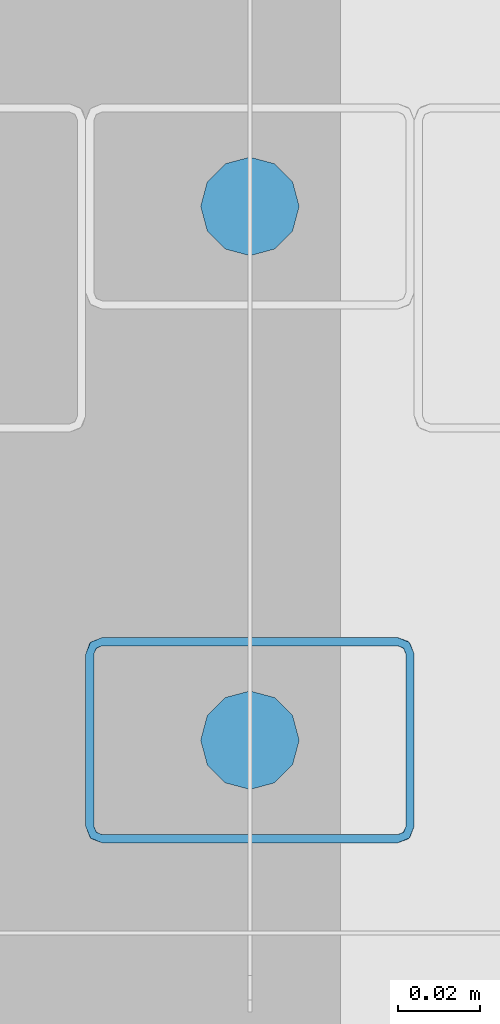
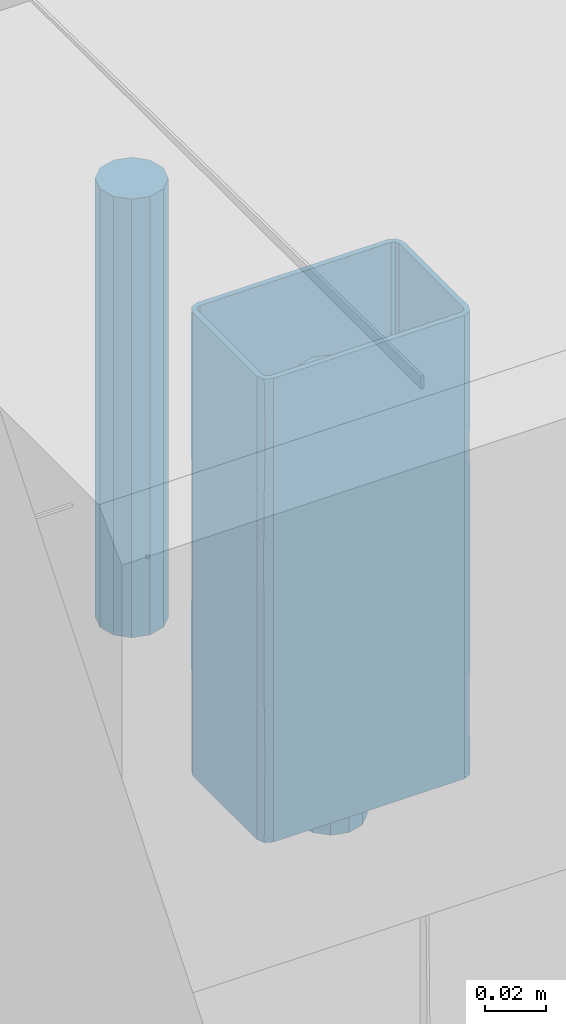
# One storey, part 134 of 186: 3 beams.
"""IFC4X3_ADD2 building model written with IfcOpenShell, lengths in millimetres."""

from ifc_helpers import new_model, si_unit, direction, frame, origin_with_axes, place, context, subcontext, project, spatial, polygons, element, save


model = new_model("IFC4X3_ADD2")

# Units and contexts
model_context = context("Model", 3, precision=1e-05, world=origin_with_axes(), true_north=direction((0.0, 1.0)))
body_context = subcontext(model_context, "Body", "Model", "MODEL_VIEW")
ifc_project = project(units=[si_unit("LENGTHUNIT", "METRE", prefix="MILLI"), si_unit("AREAUNIT", "SQUARE_METRE"), si_unit("VOLUMEUNIT", "CUBIC_METRE"), si_unit("PLANEANGLEUNIT", "RADIAN"), si_unit("TIMEUNIT", "SECOND"), si_unit("MASSUNIT", "GRAM")], contexts=[model_context])

# Site, building, storey
site_placement = place(None, origin_with_axes())
site = spatial("IfcSite", under=ifc_project, at=site_placement, Name="Site", CompositionType="ELEMENT")
building_placement = place(site_placement, origin_with_axes())
building = spatial("IfcBuilding", under=site, at=building_placement, Name="IFC Building Story")
storey_placement = place(building_placement, frame((0.0, 0.0, 4370.0), z_axis=(0.0, 0.0, 1.0), x_axis=(1.0, 0.0, 0.0)))
storey = spatial("IfcBuildingStorey", under=building, at=storey_placement, Name="ETAGE 10 (1)", Elevation=4370.0)

# Beams
beam_1_placement = place(storey_placement, frame((0.0, 0.0, -4370.0), z_axis=(0.0, 0.0, 1.0), x_axis=(1.0, 0.0, 0.0)))
element("IfcBeam", 1, at=beam_1_placement, inside=storey, Name="SD11", ObjectType="D24", context=body_context, shape_type="Tessellation", body=[
    polygons([(33339.1876988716, -14379.999992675, 7707.905416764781), (33339.1876988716, -14379.999992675, 7532.90541676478), (33340.79539402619, -14385.999992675, 7532.90541676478), (33340.79539402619, -14385.999992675, 7707.905416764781), (33345.1876988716, -14390.39229752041, 7532.90541676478), (33345.1876988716, -14390.39229752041, 7707.905416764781), (33351.1876988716, -14391.999992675, 7532.90541676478), (33351.1876988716, -14391.999992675, 7707.905416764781), (33357.1876988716, -14390.39229752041, 7532.90541676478), (33357.1876988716, -14390.39229752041, 7707.905416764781), (33361.58000371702, -14385.999992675, 7532.90541676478), (33361.58000371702, -14385.999992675, 7707.905416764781), (33363.1876988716, -14379.999992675, 7532.90541676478), (33363.1876988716, -14379.999992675, 7707.905416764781), (33361.58000371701, -14373.999992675, 7532.90541676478), (33361.58000371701, -14373.999992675, 7707.905416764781), (33357.1876988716, -14369.60768782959, 7532.90541676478), (33357.1876988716, -14369.60768782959, 7707.905416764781), (33351.1876988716, -14367.999992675, 7532.90541676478), (33351.1876988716, -14367.999992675, 7707.905416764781), (33345.1876988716, -14369.60768782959, 7532.90541676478), (33345.1876988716, -14369.60768782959, 7707.905416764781), (33340.79539402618, -14373.999992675, 7532.90541676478), (33340.79539402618, -14373.999992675, 7707.905416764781)], [[[1, 2, 3, 4]], [[4, 3, 5, 6]], [[6, 5, 7, 8]], [[8, 7, 9, 10]], [[10, 9, 11, 12]], [[12, 11, 13, 14]], [[14, 13, 15, 16]], [[16, 15, 17, 18]], [[18, 17, 19, 20]], [[20, 19, 21, 22]], [[22, 21, 23, 24]], [[24, 23, 2, 1]], [[4, 6, 8]], [[4, 8, 10]], [[4, 10, 12]], [[4, 12, 14]], [[4, 14, 16]], [[4, 16, 18]], [[4, 18, 20]], [[4, 20, 22]], [[4, 22, 24]], [[4, 24, 1]], [[2, 23, 21]], [[2, 21, 19]], [[2, 19, 17]], [[2, 17, 15]], [[2, 15, 13]], [[2, 13, 11]], [[2, 11, 9]], [[2, 9, 7]], [[2, 7, 5]], [[2, 5, 3]]]),
])
beam_2_placement = place(storey_placement, frame((0.0, 0.0, -4370.0), z_axis=(0.0, 0.0, 1.0), x_axis=(1.0, 0.0, 0.0)))
element("IfcBeam", 2, at=beam_2_placement, inside=storey, Name="SD11", ObjectType="D24", context=body_context, shape_type="Tessellation", body=[
    polygons([(33339.1876988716, -14249.999992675, 7707.905416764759), (33339.1876988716, -14249.999992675, 7532.90541676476), (33340.79539402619, -14255.999992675, 7532.90541676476), (33340.79539402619, -14255.999992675, 7707.905416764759), (33345.1876988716, -14260.39229752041, 7532.90541676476), (33345.1876988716, -14260.39229752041, 7707.905416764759), (33351.1876988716, -14261.999992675, 7532.90541676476), (33351.1876988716, -14261.999992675, 7707.905416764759), (33357.1876988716, -14260.39229752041, 7532.90541676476), (33357.1876988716, -14260.39229752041, 7707.905416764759), (33361.58000371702, -14255.999992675, 7532.90541676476), (33361.58000371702, -14255.999992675, 7707.905416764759), (33363.18769887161, -14249.999992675, 7532.90541676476), (33363.18769887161, -14249.999992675, 7707.905416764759), (33361.58000371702, -14243.999992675, 7532.90541676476), (33361.58000371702, -14243.999992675, 7707.905416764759), (33357.1876988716, -14239.60768782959, 7532.90541676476), (33357.1876988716, -14239.60768782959, 7707.905416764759), (33351.1876988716, -14237.999992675, 7532.90541676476), (33351.1876988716, -14237.999992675, 7707.905416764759), (33345.1876988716, -14239.60768782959, 7532.90541676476), (33345.1876988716, -14239.60768782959, 7707.905416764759), (33340.79539402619, -14243.999992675, 7532.90541676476), (33340.79539402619, -14243.999992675, 7707.905416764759)], [[[1, 2, 3, 4]], [[4, 3, 5, 6]], [[6, 5, 7, 8]], [[8, 7, 9, 10]], [[10, 9, 11, 12]], [[12, 11, 13, 14]], [[14, 13, 15, 16]], [[16, 15, 17, 18]], [[18, 17, 19, 20]], [[20, 19, 21, 22]], [[22, 21, 23, 24]], [[24, 23, 2, 1]], [[4, 6, 8]], [[4, 8, 10]], [[4, 10, 12]], [[4, 12, 14]], [[4, 14, 16]], [[4, 16, 18]], [[4, 18, 20]], [[4, 20, 22]], [[4, 22, 24]], [[4, 24, 1]], [[2, 23, 21]], [[2, 21, 19]], [[2, 19, 17]], [[2, 17, 15]], [[2, 15, 13]], [[2, 13, 11]], [[2, 11, 9]], [[2, 9, 7]], [[2, 7, 5]], [[2, 5, 3]]]),
])
beam_3_placement = place(storey_placement, frame((0.0, 0.0, -4370.0), z_axis=(0.0, 0.0, 1.0), x_axis=(1.0, 0.0, 0.0)))
element("IfcBeam", 3, at=beam_3_placement, inside=storey, Name="PS9", ObjectType="K50*80*2", context=body_context, shape_type="Tessellation", body=[
    polygons([(33389.18800000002, -14400.99999999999, 7549.598981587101), (33391.18800000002, -14400.99999999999, 7549.598981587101), (33388.60221356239, -14402.41421356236, 7549.598981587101), (33389.18800000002, -14358.99999999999, 7549.598981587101), (33391.18800000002, -14358.99999999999, 7549.598981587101), (33388.60221356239, -14357.58578643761, 7549.598981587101), (33390.01642712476, -14356.17157287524, 7549.598981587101), (33387.18800000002, -14354.99999999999, 7549.598981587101), (33387.18800000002, -14356.99999999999, 7549.598981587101), (33315.18800000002, -14354.99999999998, 7549.598981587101), (33315.18800000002, -14356.99999999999, 7549.598981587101), (33313.77378643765, -14357.58578643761, 7549.598981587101), (33312.35957287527, -14356.17157287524, 7549.598981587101), (33311.18800000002, -14358.99999999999, 7549.598981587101), (33313.18800000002, -14358.99999999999, 7549.598981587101), (33311.18800000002, -14400.99999999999, 7549.598981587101), (33313.18800000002, -14400.99999999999, 7549.598981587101), (33313.77378643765, -14402.41421356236, 7549.598981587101), (33312.35957287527, -14403.82842712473, 7549.598981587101), (33315.18800000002, -14404.99999999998, 7549.598981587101), (33315.18800000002, -14402.99999999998, 7549.598981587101), (33387.18800000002, -14402.99999999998, 7549.598981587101), (33387.18800000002, -14404.99999999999, 7549.598981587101), (33390.01642712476, -14403.82842712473, 7549.598981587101), (33313.18800000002, -14400.99999999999, 7734.598981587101), (33311.18800000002, -14400.99999999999, 7734.598981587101), (33313.77378643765, -14402.41421356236, 7734.598981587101), (33313.18800000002, -14358.99999999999, 7734.598981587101), (33311.18800000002, -14358.99999999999, 7734.598981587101), (33313.77378643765, -14357.58578643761, 7734.598981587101), (33312.35957287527, -14356.17157287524, 7734.598981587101), (33315.18800000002, -14354.99999999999, 7734.598981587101), (33315.18800000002, -14356.99999999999, 7734.598981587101), (33387.18800000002, -14354.99999999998, 7734.598981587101), (33387.18800000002, -14356.99999999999, 7734.598981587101), (33388.60221356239, -14357.58578643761, 7734.598981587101), (33390.01642712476, -14356.17157287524, 7734.598981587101), (33391.18800000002, -14358.99999999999, 7734.598981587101), (33389.18800000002, -14358.99999999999, 7734.598981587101), (33391.18800000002, -14400.99999999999, 7734.598981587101), (33389.18800000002, -14400.99999999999, 7734.598981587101), (33388.60221356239, -14402.41421356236, 7734.598981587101), (33390.01642712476, -14403.82842712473, 7734.598981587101), (33387.18800000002, -14404.99999999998, 7734.598981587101), (33387.18800000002, -14402.99999999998, 7734.598981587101), (33315.18800000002, -14402.99999999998, 7734.598981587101), (33315.18800000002, -14404.99999999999, 7734.598981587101), (33312.35957287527, -14403.82842712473, 7734.598981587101), (33315.18800000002, -14354.99999999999, 7567.057500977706), (33315.18800000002, -14354.99999999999, 7595.848981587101), (33315.18800000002, -14354.99999999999, 7618.973979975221), (33315.18800000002, -14354.99999999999, 7642.098981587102), (33315.18800000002, -14354.99999999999, 7665.22398319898), (33315.18800000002, -14354.99999999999, 7688.348981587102), (33315.18800000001, -14354.99999999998, 7717.140462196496), (33387.18800000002, -14354.99999999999, 7699.681936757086), (33387.18800000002, -14354.99999999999, 7677.016027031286), (33387.18800000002, -14354.99999999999, 7648.224549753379), (33387.18800000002, -14354.99999999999, 7619.433072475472), (33387.18800000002, -14354.99999999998, 7584.516026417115), (33389.87013952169, -14356.03248798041, 7688.348979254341), (33391.18800000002, -14358.99999999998, 7717.140460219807), (33391.18800000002, -14358.99999999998, 7567.057505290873), (33390.13632995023, -14356.29678885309, 7578.945875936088), (33390.12976139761, -14356.28964211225, 7653.661479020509), (33391.18800000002, -14358.99999999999, 7665.223981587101), (33390.12985629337, -14356.28974511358, 7628.466971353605), (33389.76734546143, -14355.94271738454, 7711.526446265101), (33391.18800000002, -14358.99999999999, 7688.348981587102), (33389.75682180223, -14355.93386977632, 7602.891747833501), (33391.18800000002, -14358.99999999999, 7642.098981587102), (33391.18800000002, -14358.99999999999, 7618.9739815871), (33391.18800000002, -14358.99999999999, 7595.848981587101), (33391.18800000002, -14400.99999999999, 7717.140458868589), (33391.18800000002, -14400.99999999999, 7688.348981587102), (33391.18800000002, -14400.99999999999, 7665.223981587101), (33391.18800000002, -14400.99999999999, 7642.098981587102), (33391.18800000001, -14400.99999999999, 7618.9739815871), (33391.18800000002, -14400.99999999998, 7595.848981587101), (33391.18800000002, -14400.99999999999, 7567.057504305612), (33390.13633021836, -14403.70321085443, 7705.252077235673), (33389.76734551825, -14404.05728256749, 7572.671514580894), (33389.87013952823, -14403.96751201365, 7595.848979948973), (33387.18800000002, -14404.99999999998, 7584.516027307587), (33387.18800000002, -14404.99999999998, 7607.181936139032), (33390.12976137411, -14403.71035791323, 7630.536479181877), (33387.18800000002, -14404.99999999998, 7699.681935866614), (33389.75682193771, -14404.06613011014, 7681.306206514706), (33390.12985619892, -14403.71025498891, 7655.73098495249), (33387.18800000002, -14404.99999999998, 7664.764890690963), (33387.18800000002, -14404.99999999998, 7635.973413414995), (33315.18800000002, -14404.99999999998, 7699.681936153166), (33315.18800000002, -14404.99999999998, 7670.890458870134), (33315.18800000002, -14404.99999999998, 7642.098981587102), (33315.18800000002, -14404.99999999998, 7618.973981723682), (33315.18800000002, -14404.99999999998, 7595.848981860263), (33315.18800000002, -14404.99999999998, 7567.057504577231), (33311.18800000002, -14400.99999999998, 7584.516027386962), (33311.18800000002, -14400.99999999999, 7619.433073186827), (33312.34756484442, -14403.81636789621, 7607.411479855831), (33311.18800000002, -14400.99999999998, 7699.681935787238), (33312.35957299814, -14403.8284272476, 7688.348976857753), (33312.59986179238, -14404.04984272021, 7711.473977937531), (33312.5361167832, -14403.99458100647, 7583.376471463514), (33312.22049317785, -14403.68214527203, 7663.470051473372), (33312.2957334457, -14403.76311313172, 7640.418718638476), (33311.18800000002, -14400.99999999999, 7677.01602659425), (33311.18800000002, -14400.99999999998, 7648.224549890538), (33311.18800000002, -14358.99999999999, 7699.681936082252), (33311.18800000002, -14358.99999999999, 7677.016027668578), (33311.18800000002, -14358.99999999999, 7648.224550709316), (33311.18800000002, -14358.99999999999, 7619.433072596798), (33311.18800000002, -14358.99999999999, 7584.516027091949), (33312.22048794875, -14356.31786051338, 7688.348978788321), (33312.48478884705, -14356.05167005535, 7578.945875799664), (33312.47764210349, -14356.05823861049, 7653.661478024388), (33312.47774509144, -14356.05814372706, 7628.466970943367), (33312.13071738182, -14356.42065454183, 7711.526445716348), (33312.12186975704, -14356.43117822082, 7602.891747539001), (33313.82800168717, -14357.53357421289, 7625.929039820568), (33313.18800000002, -14358.99999999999, 7623.66922028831), (33313.8731783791, -14357.49293526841, 7613.583468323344), (33313.60929313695, -14357.77212189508, 7664.531819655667), (33313.71072133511, -14357.65179832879, 7653.749277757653), (33315.18800000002, -14356.99999999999, 7665.223981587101), (33313.82800170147, -14357.53357419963, 7693.738959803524), (33313.18800000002, -14358.99999999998, 7702.259100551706), (33313.18800000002, -14358.99999999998, 7691.479140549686), (33313.18800000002, -14358.99999999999, 7680.699180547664), (33313.70109668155, -14357.6624206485, 7641.817961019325), (33315.18800000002, -14356.99999999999, 7642.098981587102), (33315.18800000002, -14356.99999999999, 7722.253941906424), (33313.7737864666, -14357.58578640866, 7717.646499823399), (33315.18800000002, -14356.99999999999, 7709.90890222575), (33313.78242951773, -14357.57719586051, 7705.830626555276), (33313.18800000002, -14358.99999999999, 7722.25394171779), (33313.18800000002, -14358.99999999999, 7561.94402094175), (33313.77378641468, -14357.58578646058, 7568.11654096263), (33315.18800000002, -14356.99999999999, 7561.944021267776), (33313.18800000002, -14358.99999999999, 7636.014260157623), (33313.18800000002, -14358.99999999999, 7586.634100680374), (33313.72736652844, -14357.63378264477, 7580.461580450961), (33313.77378639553, -14357.58578647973, 7592.806619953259), (33313.71533825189, -14357.64675671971, 7675.309197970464), (33315.18800000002, -14356.99999999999, 7688.348981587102), (33313.18800000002, -14358.99999999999, 7598.979140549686), (33313.18800000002, -14358.99999999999, 7574.289060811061), (33315.18800000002, -14356.99999999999, 7586.63410062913), (33315.18800000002, -14356.99999999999, 7574.289060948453), (33313.18800000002, -14358.99999999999, 7713.039061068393), (33315.18800000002, -14356.99999999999, 7699.128941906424), (33313.18800000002, -14358.99999999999, 7659.139259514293), (33313.18800000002, -14358.99999999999, 7648.359299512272), (33313.18800000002, -14358.99999999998, 7669.919220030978), (33315.18800000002, -14356.99999999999, 7653.661481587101), (33315.18800000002, -14356.99999999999, 7631.319021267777), (33315.18800000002, -14356.99999999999, 7676.786481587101), (33315.18800000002, -14356.99999999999, 7620.539060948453), (33313.18800000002, -14358.99999999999, 7611.324180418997), (33313.63244519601, -14357.74292034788, 7603.287688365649), (33315.18800000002, -14356.99999999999, 7609.759100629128), (33315.18800000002, -14356.99999999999, 7598.979140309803), (33313.18800000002, -14400.99999999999, 7722.253941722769), (33313.18800000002, -14400.99999999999, 7709.908901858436), (33313.18800000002, -14400.99999999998, 7699.128941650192), (33313.18800000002, -14400.99999999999, 7688.348981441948), (33313.18800000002, -14400.99999999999, 7676.786481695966), (33313.18800000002, -14400.99999999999, 7665.223981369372), (33313.18800000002, -14400.99999999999, 7653.661481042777), (33313.18800000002, -14400.99999999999, 7642.098981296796), (33313.18800000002, -14400.99999999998, 7630.536481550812), (33313.18800000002, -14400.99999999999, 7618.973981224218), (33313.18800000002, -14400.99999999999, 7607.411480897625), (33313.18800000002, -14400.99999999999, 7595.848981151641), (33313.18800000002, -14400.99999999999, 7585.069020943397), (33313.18800000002, -14400.99999999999, 7574.289060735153), (33313.18800000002, -14400.99999999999, 7561.944021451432), (33313.70396062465, -14402.3407561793, 7659.44273014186), (33313.66385584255, -14402.29498439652, 7647.880618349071), (33313.87324681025, -14402.50712443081, 7621.237918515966), (33313.70196043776, -14402.33853891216, 7636.317730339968), (33315.18800000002, -14402.99999999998, 7625.058702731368), (33315.18800000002, -14402.99999999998, 7561.944020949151), (33313.77378644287, -14402.41421356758, 7566.551461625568), (33315.18800000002, -14402.99999999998, 7571.158902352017), (33313.72157418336, -14402.35999828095, 7579.67904054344), (33313.699419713, -14402.33571281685, 7694.823087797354), (33313.71634898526, -14402.35434238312, 7682.567730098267), (33315.18800000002, -14402.99999999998, 7648.18370400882), (33313.73351716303, -14402.37276351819, 7591.347273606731), (33315.18800000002, -14402.99999999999, 7581.938862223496), (33315.18800000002, -14402.99999999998, 7722.25394222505), (33315.18800000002, -14402.99999999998, 7685.218823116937), (33313.77378642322, -14402.41421354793, 7716.08142123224), (33315.18800000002, -14402.99999999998, 7709.908901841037), (33315.18800000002, -14402.99999999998, 7672.873782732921), (33313.66429696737, -14402.29550340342, 7671.008022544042), (33315.18800000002, -14402.99999999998, 7660.528743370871), (33313.83475669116, -14402.47266172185, 7608.888762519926), (33315.18800000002, -14402.99999999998, 7614.278742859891), (33315.18800000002, -14402.99999999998, 7603.498782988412), (33315.18800000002, -14402.99999999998, 7592.718822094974), (33315.18800000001, -14402.99999999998, 7697.563862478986), (33313.91815055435, -14402.54514801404, 7705.388109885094), (33315.18800000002, -14402.99999999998, 7635.838663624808), (33387.18800000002, -14402.99999999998, 7722.253942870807), (33387.18800000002, -14402.99999999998, 7711.473981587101), (33387.18800000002, -14402.99999999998, 7699.9114815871), (33387.18800000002, -14402.99999999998, 7688.348981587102), (33387.18800000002, -14402.99999999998, 7676.786481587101), (33387.18800000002, -14402.99999999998, 7665.223981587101), (33387.18800000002, -14402.99999999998, 7653.661481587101), (33387.18800000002, -14402.99999999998, 7642.098981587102), (33387.18800000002, -14402.99999999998, 7630.536481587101), (33387.18800000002, -14402.99999999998, 7618.9739815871), (33387.18800000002, -14402.99999999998, 7607.411481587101), (33387.18800000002, -14402.99999999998, 7595.848981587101), (33387.18800000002, -14402.99999999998, 7585.069020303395), (33387.18800000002, -14402.99999999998, 7574.289060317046), (33387.18800000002, -14402.99999999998, 7561.944020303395), (33388.52875615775, -14402.48403939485, 7659.442730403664), (33388.48298437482, -14402.52414417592, 7647.880618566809), (33388.69512441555, -14402.31475320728, 7621.237918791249), (33388.52653889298, -14402.48603957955, 7636.317730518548), (33389.18800000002, -14400.99999999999, 7625.058703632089), (33388.47419377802, -14402.53156964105, 7705.518256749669), (33389.18800000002, -14400.99999999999, 7561.944022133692), (33388.60221356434, -14402.41421356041, 7566.551461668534), (33389.18800000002, -14400.99999999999, 7571.158902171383), (33389.18800000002, -14400.99999999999, 7722.253942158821), (33388.5479982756, -14402.46642582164, 7579.679040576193), (33389.18800000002, -14400.99999999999, 7685.218822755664), (33388.55331837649, -14402.46147382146, 7694.130230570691), (33389.18800000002, -14400.99999999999, 7697.563862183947), (33388.67361845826, -14402.33900627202, 7679.046301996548), (33388.56076351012, -14402.45448284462, 7591.347273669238), (33389.18800000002, -14400.99999999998, 7581.938862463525), (33389.18800000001, -14400.99999999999, 7709.908902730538), (33388.60221354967, -14402.41421357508, 7716.86396120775), (33389.18800000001, -14400.99999999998, 7648.183703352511), (33389.18800000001, -14400.99999999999, 7672.873783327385), (33389.18800000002, -14400.99999999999, 7660.528742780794), (33388.66066170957, -14402.35324332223, 7608.888762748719), (33389.18800000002, -14400.99999999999, 7614.278743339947), (33389.18800000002, -14400.99999999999, 7603.498783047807), (33389.18800000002, -14400.99999999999, 7592.718822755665), (33389.18800000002, -14400.99999999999, 7635.838663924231), (33389.18800000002, -14358.99999999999, 7722.253941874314), (33389.18800000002, -14358.99999999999, 7709.908902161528), (33389.18800000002, -14358.99999999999, 7697.563862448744), (33389.18800000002, -14358.99999999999, 7685.218822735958), (33389.18800000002, -14358.99999999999, 7672.873783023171), (33389.18800000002, -14358.99999999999, 7660.528743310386), (33389.18800000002, -14358.99999999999, 7648.183703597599), (33389.18800000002, -14358.99999999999, 7635.838663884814), (33389.18800000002, -14358.99999999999, 7625.0587035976), (33389.18800000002, -14358.99999999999, 7614.278743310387), (33389.18800000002, -14358.99999999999, 7603.498783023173), (33389.18800000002, -14358.99999999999, 7592.718822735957), (33389.18800000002, -14358.99999999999, 7581.938862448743), (33389.18800000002, -14358.99999999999, 7571.158902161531), (33389.18800000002, -14358.99999999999, 7561.944021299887), (33388.76670674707, -14357.77212174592, 7619.666140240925), (33388.66527859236, -14357.65179824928, 7630.448682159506), (33387.18800000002, -14356.99999999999, 7618.973981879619), (33388.54799824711, -14357.5335741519, 7658.268919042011), (33388.50282159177, -14357.49293524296, 7670.614489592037), (33388.60221360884, -14357.58578648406, 7716.081418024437), (33388.60221362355, -14357.58578649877, 7702.876051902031), (33387.18800000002, -14356.99999999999, 7709.908902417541), (33387.18800000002, -14356.99999999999, 7642.098981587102), (33388.67490326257, -14357.66242058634, 7642.379998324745), (33388.54799825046, -14357.53357415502, 7590.459000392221), (33388.59357048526, -14357.57719586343, 7578.367333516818), (33387.18800000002, -14356.99999999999, 7574.289060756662), (33388.60221356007, -14357.58578643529, 7566.551461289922), (33388.6606616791, -14357.64675664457, 7608.888761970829), (33387.18800000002, -14356.99999999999, 7595.848981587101), (33387.18800000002, -14356.99999999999, 7697.563862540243), (33388.60221352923, -14357.58578640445, 7690.510053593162), (33387.18800000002, -14356.99999999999, 7722.253941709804), (33387.18800000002, -14356.99999999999, 7561.944021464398), (33387.18800000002, -14356.99999999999, 7585.069021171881), (33387.18800000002, -14356.99999999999, 7630.536482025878), (33387.18800000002, -14356.99999999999, 7652.878942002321), (33387.18800000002, -14356.99999999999, 7607.41148173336), (33387.18800000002, -14356.99999999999, 7663.658901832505), (33387.18800000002, -14356.99999999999, 7674.438862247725), (33387.18800000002, -14356.99999999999, 7685.218822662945)], [[[1, 2, 3]], [[2, 1, 4]], [[4, 5, 2]], [[6, 5, 4]], [[7, 5, 6]], [[6, 8, 7]], [[6, 9, 8]], [[8, 9, 10]], [[11, 10, 9]], [[11, 12, 10]], [[10, 12, 13]], [[14, 13, 12]], [[14, 12, 15]], [[14, 15, 16]], [[17, 16, 15]], [[18, 16, 17]], [[16, 18, 19]], [[18, 20, 19]], [[21, 20, 18]], [[20, 21, 22]], [[3, 23, 22]], [[22, 23, 20]], [[3, 2, 24]], [[23, 3, 24]], [[25, 26, 27]], [[26, 25, 28]], [[28, 29, 26]], [[30, 29, 28]], [[31, 29, 30]], [[30, 32, 31]], [[30, 33, 32]], [[32, 33, 34]], [[35, 34, 33]], [[35, 36, 34]], [[34, 36, 37]], [[38, 37, 36]], [[38, 36, 39]], [[38, 39, 40]], [[41, 40, 39]], [[42, 40, 41]], [[40, 42, 43]], [[42, 44, 43]], [[45, 44, 42]], [[44, 45, 46]], [[27, 47, 46]], [[46, 47, 44]], [[27, 26, 48]], [[47, 27, 48]], [[55, 32, 34]], [[56, 57, 54]], [[54, 55, 34]], [[54, 34, 56]], [[57, 53, 54]], [[57, 58, 52]], [[57, 52, 53]], [[58, 59, 51]], [[58, 51, 52]], [[59, 60, 50]], [[59, 50, 51]], [[60, 8, 49]], [[60, 49, 50]], [[8, 10, 49]], [[61, 57, 56]], [[37, 38, 62]], [[63, 5, 7]], [[7, 8, 64]], [[61, 65, 57]], [[66, 65, 61]], [[67, 59, 58]], [[61, 68, 69]], [[61, 56, 68]], [[8, 60, 64]], [[67, 70, 59]], [[34, 37, 68]], [[64, 60, 70]], [[68, 62, 69]], [[58, 65, 67]], [[65, 66, 71]], [[61, 69, 66]], [[65, 71, 67]], [[57, 65, 58]], [[70, 72, 73]], [[72, 70, 67]], [[64, 73, 63]], [[60, 59, 70]], [[34, 68, 56]], [[62, 68, 37]], [[67, 71, 72]], [[73, 64, 70]], [[7, 64, 63]], [[62, 38, 40]], [[62, 40, 74]], [[74, 75, 69]], [[74, 69, 62]], [[75, 76, 66]], [[75, 66, 69]], [[76, 77, 71]], [[76, 71, 66]], [[77, 78, 72]], [[77, 72, 71]], [[78, 79, 73]], [[78, 73, 72]], [[79, 80, 63]], [[79, 63, 73]], [[80, 2, 5]], [[80, 5, 63]], [[43, 44, 81]], [[82, 79, 83]], [[84, 83, 85]], [[82, 80, 79]], [[83, 86, 85]], [[24, 2, 80]], [[74, 40, 43]], [[78, 86, 83]], [[81, 44, 87]], [[87, 88, 81]], [[89, 90, 91]], [[89, 88, 90]], [[23, 24, 82]], [[83, 84, 82]], [[91, 86, 89]], [[86, 78, 77]], [[83, 79, 78]], [[86, 77, 89]], [[85, 86, 91]], [[88, 76, 75]], [[76, 88, 89]], [[81, 75, 74]], [[87, 90, 88]], [[23, 82, 84]], [[80, 82, 24]], [[89, 77, 76]], [[75, 81, 88]], [[43, 81, 74]], [[87, 44, 47]], [[87, 47, 92]], [[92, 93, 90]], [[92, 90, 87]], [[93, 94, 91]], [[93, 91, 90]], [[95, 96, 85]], [[85, 91, 94]], [[85, 94, 95]], [[96, 84, 85]], [[97, 20, 23]], [[97, 23, 84]], [[84, 96, 97]], [[98, 16, 19]], [[99, 98, 100]], [[101, 102, 103]], [[19, 97, 104]], [[48, 103, 47]], [[94, 105, 106]], [[93, 102, 105]], [[96, 100, 104]], [[105, 102, 107]], [[26, 101, 103]], [[100, 106, 99]], [[19, 20, 97]], [[101, 107, 102]], [[105, 94, 93]], [[103, 102, 92]], [[93, 92, 102]], [[107, 108, 105]], [[105, 108, 106]], [[47, 103, 92]], [[103, 48, 26]], [[108, 99, 106]], [[96, 95, 100]], [[100, 95, 106]], [[95, 94, 106]], [[104, 100, 98]], [[19, 104, 98]], [[97, 96, 104]], [[101, 26, 29]], [[101, 29, 109]], [[109, 110, 107]], [[109, 107, 101]], [[110, 111, 108]], [[110, 108, 107]], [[111, 112, 99]], [[111, 99, 108]], [[112, 113, 98]], [[112, 98, 99]], [[113, 14, 16]], [[113, 16, 98]], [[114, 110, 109]], [[31, 32, 55]], [[49, 10, 13]], [[13, 14, 115]], [[114, 116, 110]], [[53, 116, 114]], [[117, 112, 111]], [[114, 118, 54]], [[114, 109, 118]], [[14, 113, 115]], [[117, 119, 112]], [[29, 31, 118]], [[115, 113, 119]], [[118, 55, 54]], [[111, 116, 117]], [[116, 53, 52]], [[114, 54, 53]], [[116, 52, 117]], [[110, 116, 111]], [[119, 51, 50]], [[51, 119, 117]], [[115, 50, 49]], [[113, 112, 119]], [[29, 118, 109]], [[55, 118, 31]], [[117, 52, 51]], [[50, 115, 119]], [[13, 115, 49]], [[120, 121, 122]], [[123, 124, 125]], [[126, 127, 128, 129]], [[124, 130, 131]], [[132, 30, 133]], [[134, 133, 135]], [[30, 28, 136]], [[137, 15, 12]], [[138, 12, 139]], [[120, 130, 140]], [[141, 142, 143]], [[144, 145, 126]], [[141, 143, 146]], [[137, 138, 147]], [[148, 142, 149]], [[30, 136, 133]], [[150, 133, 136]], [[12, 11, 139]], [[132, 33, 30]], [[12, 138, 137]], [[133, 134, 132]], [[150, 127, 135]], [[135, 126, 151]], [[150, 135, 133]], [[151, 126, 145]], [[152, 153, 124]], [[129, 154, 144]], [[124, 131, 155, 125]], [[130, 120, 156]], [[144, 154, 123]], [[157, 145, 144, 125]], [[129, 144, 126]], [[152, 123, 154]], [[158, 120, 122]], [[142, 138, 149]], [[142, 141, 147]], [[149, 138, 139]], [[159, 122, 121]], [[153, 130, 124]], [[159, 160, 122]], [[156, 120, 158]], [[121, 120, 140]], [[143, 160, 146]], [[161, 158, 122]], [[143, 162, 160]], [[148, 162, 143]], [[143, 142, 148]], [[138, 142, 147]], [[144, 123, 125]], [[124, 123, 152]], [[134, 135, 151]], [[135, 127, 126]], [[146, 160, 159]], [[162, 161, 160]], [[161, 122, 160]], [[156, 131, 130]], [[140, 130, 153]], [[136, 28, 25]], [[136, 25, 163]], [[163, 164, 150]], [[163, 150, 136]], [[164, 165, 127]], [[164, 127, 150]], [[165, 166, 128]], [[165, 128, 127]], [[166, 167, 129]], [[166, 129, 128]], [[167, 168, 154]], [[167, 154, 129]], [[168, 169, 152]], [[168, 152, 154]], [[169, 153, 152]], [[170, 171, 140]], [[140, 153, 169]], [[140, 169, 170]], [[171, 172, 121]], [[171, 121, 140]], [[172, 173, 159]], [[172, 159, 121]], [[173, 174, 146]], [[173, 146, 159]], [[174, 175, 141]], [[174, 141, 146]], [[175, 176, 147]], [[175, 147, 141]], [[176, 177, 137]], [[176, 137, 147]], [[177, 17, 15]], [[177, 15, 137]], [[178, 179, 169]], [[180, 181, 182]], [[163, 25, 27]], [[18, 17, 177]], [[183, 184, 185]], [[176, 175, 186]], [[187, 188, 166]], [[166, 188, 167]], [[189, 179, 178]], [[190, 186, 175]], [[186, 190, 191]], [[183, 21, 18]], [[46, 192, 27]], [[187, 193, 188]], [[163, 194, 164]], [[195, 194, 192]], [[185, 186, 191]], [[27, 194, 163]], [[196, 197, 188]], [[169, 168, 178]], [[18, 177, 176, 184]], [[198, 189, 178]], [[18, 184, 183]], [[186, 185, 184]], [[199, 200, 201]], [[176, 186, 184]], [[202, 191, 190, 201]], [[27, 192, 194]], [[190, 199, 201]], [[179, 181, 170]], [[197, 196, 198]], [[178, 168, 197]], [[193, 196, 188]], [[197, 167, 188]], [[187, 203, 193]], [[195, 204, 194]], [[165, 164, 204]], [[180, 199, 172]], [[172, 199, 174, 173]], [[199, 190, 174]], [[180, 200, 199]], [[205, 182, 181, 189]], [[171, 181, 180]], [[204, 195, 203]], [[187, 165, 204]], [[170, 181, 171]], [[180, 172, 171]], [[169, 179, 170]], [[181, 179, 189]], [[167, 197, 168]], [[198, 178, 197]], [[182, 200, 180]], [[187, 166, 165]], [[194, 204, 164]], [[187, 204, 203]], [[174, 190, 175]], [[192, 46, 45]], [[192, 45, 206]], [[206, 207, 195]], [[206, 195, 192]], [[207, 208, 203]], [[207, 203, 195]], [[208, 209, 193]], [[208, 193, 203]], [[209, 210, 196]], [[209, 196, 193]], [[210, 211, 198]], [[210, 198, 196]], [[211, 212, 189]], [[211, 189, 198]], [[213, 214, 205]], [[213, 205, 189]], [[189, 212, 213]], [[214, 182, 205]], [[214, 215, 200]], [[214, 200, 182]], [[215, 216, 201]], [[215, 201, 200]], [[216, 217, 202]], [[216, 202, 201]], [[217, 218, 191]], [[217, 191, 202]], [[218, 219, 185]], [[218, 185, 191]], [[219, 220, 183]], [[219, 183, 185]], [[220, 22, 21]], [[220, 21, 183]], [[221, 222, 212]], [[223, 224, 225]], [[208, 207, 226]], [[227, 1, 3]], [[227, 3, 228]], [[228, 229, 227]], [[42, 41, 230]], [[219, 218, 231]], [[232, 233, 234]], [[233, 235, 209]], [[208, 233, 209]], [[236, 231, 218]], [[231, 236, 237]], [[238, 226, 239]], [[206, 239, 207]], [[208, 226, 233]], [[206, 45, 42]], [[220, 219, 228]], [[228, 3, 22]], [[228, 22, 220]], [[229, 231, 237]], [[42, 230, 239]], [[42, 239, 206]], [[239, 230, 238]], [[240, 222, 221]], [[221, 235, 241]], [[212, 211, 221]], [[242, 240, 221, 241]], [[231, 229, 228]], [[243, 244, 245]], [[219, 231, 228]], [[246, 237, 236, 245]], [[241, 235, 232]], [[238, 234, 226]], [[222, 224, 213]], [[210, 209, 235, 211]], [[235, 221, 211]], [[236, 243, 245]], [[223, 243, 215]], [[215, 243, 217, 216]], [[243, 236, 217]], [[223, 244, 243]], [[247, 225, 224, 240]], [[214, 224, 223]], [[213, 224, 214]], [[223, 215, 214]], [[232, 235, 233]], [[212, 222, 213]], [[224, 222, 240]], [[234, 233, 226]], [[239, 226, 207]], [[225, 244, 223]], [[217, 236, 218]], [[230, 41, 39]], [[230, 39, 248]], [[248, 249, 238]], [[248, 238, 230]], [[249, 250, 234]], [[249, 234, 238]], [[250, 251, 232]], [[250, 232, 234]], [[251, 252, 241]], [[251, 241, 232]], [[252, 253, 242]], [[252, 242, 241]], [[253, 254, 240]], [[253, 240, 242]], [[254, 255, 247]], [[254, 247, 240]], [[255, 256, 225]], [[255, 225, 247]], [[256, 257, 244]], [[256, 244, 225]], [[257, 258, 245]], [[257, 245, 244]], [[258, 259, 246]], [[258, 246, 245]], [[259, 260, 237]], [[259, 237, 246]], [[260, 261, 229]], [[260, 229, 237]], [[261, 262, 227]], [[261, 227, 229]], [[262, 4, 1]], [[262, 1, 227]], [[263, 264, 265]], [[266, 253, 267]], [[249, 248, 268]], [[269, 268, 270]], [[271, 264, 272]], [[273, 260, 259, 258]], [[261, 260, 274]], [[275, 276, 274]], [[266, 272, 254]], [[262, 261, 276]], [[276, 6, 4]], [[276, 4, 262]], [[248, 39, 36]], [[277, 278, 273]], [[269, 279, 280]], [[35, 281, 36]], [[282, 9, 6]], [[36, 268, 248]], [[282, 6, 276]], [[281, 270, 268]], [[282, 276, 275]], [[274, 273, 283]], [[261, 274, 276]], [[283, 273, 278]], [[256, 255, 264]], [[258, 257, 277]], [[264, 271, 284, 265]], [[272, 266, 285]], [[277, 257, 263]], [[286, 278, 277, 265]], [[258, 277, 273]], [[256, 263, 257]], [[36, 281, 268]], [[249, 268, 269]], [[252, 251, 267, 253]], [[255, 272, 264]], [[287, 266, 267]], [[285, 266, 287]], [[253, 266, 254]], [[250, 249, 269]], [[280, 250, 269]], [[288, 287, 267, 289]], [[280, 289, 267]], [[277, 263, 265]], [[251, 250, 280]], [[269, 270, 279]], [[264, 263, 256]], [[275, 274, 283]], [[274, 260, 273]], [[285, 271, 272]], [[254, 272, 255]], [[251, 280, 267]], [[289, 280, 279]], [[281, 35, 33]], [[281, 33, 132]], [[132, 134, 270]], [[132, 270, 281]], [[134, 151, 279]], [[134, 279, 270]], [[151, 145, 289]], [[151, 289, 279]], [[145, 157, 288]], [[145, 288, 289]], [[157, 125, 287]], [[157, 287, 288]], [[125, 155, 285]], [[125, 285, 287]], [[155, 131, 271]], [[155, 271, 285]], [[131, 156, 284]], [[131, 284, 271]], [[156, 158, 265]], [[156, 265, 284]], [[158, 161, 286]], [[158, 286, 265]], [[161, 162, 278]], [[161, 278, 286]], [[162, 148, 283]], [[162, 283, 278]], [[148, 149, 275]], [[148, 275, 283]], [[149, 139, 282]], [[149, 282, 275]], [[139, 11, 9]], [[139, 9, 282]]]),
])

save(model, "model.ifc")
